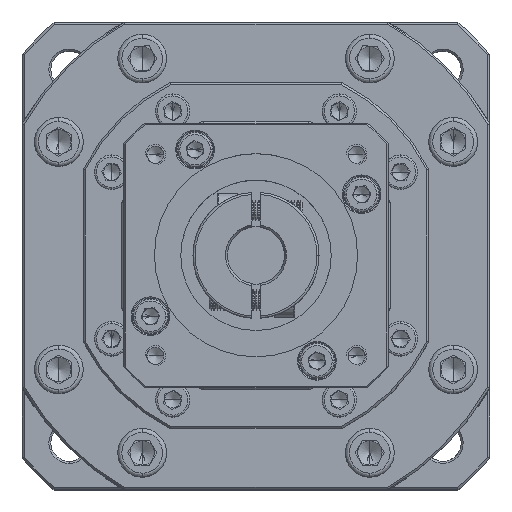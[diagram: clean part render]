
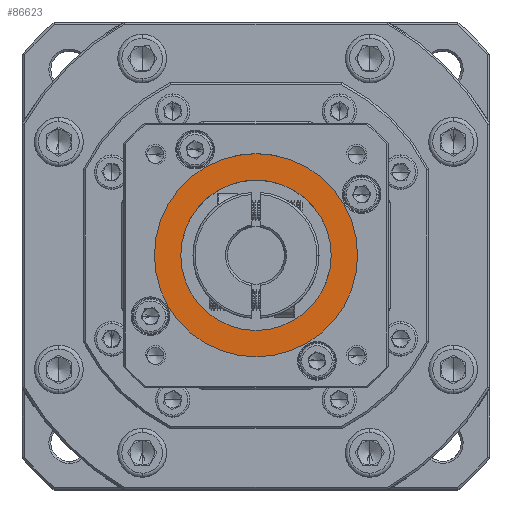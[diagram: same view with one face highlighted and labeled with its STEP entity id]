
A CAD part, top view. The second image highlights one B-rep face of the part: STEP entity #86623.
In plain terms, the highlighted planar face has unit normal (0, 0, 1).
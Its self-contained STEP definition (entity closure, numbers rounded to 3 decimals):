
#743 = CARTESIAN_POINT ( 'NONE',  ( -27.203, 21.322, -20.152 ) ) ;
#2590 = EDGE_CURVE ( 'NONE', #123729, #74776, #60443, .T. ) ;
#2676 = DIRECTION ( 'NONE',  ( 1., 0., 0. ) ) ;
#15664 = CARTESIAN_POINT ( 'NONE',  ( -52.203, 21.322, -20.152 ) ) ;
#19280 = ORIENTED_EDGE ( 'NONE', *, *, #2590, .T. ) ;
#19883 = CIRCLE ( 'NONE', #56993, 25. ) ;
#22694 = AXIS2_PLACEMENT_3D ( 'NONE', #89394, #30949, #99228 ) ;
#25179 = CARTESIAN_POINT ( 'NONE',  ( -33.703, 21.322, -20.152 ) ) ;
#25540 = DIRECTION ( 'NONE',  ( 1., 0., 0. ) ) ;
#27964 = ORIENTED_EDGE ( 'NONE', *, *, #94405, .T. ) ;
#28290 = CARTESIAN_POINT ( 'NONE',  ( -52.203, 21.322, -20.152 ) ) ;
#30650 = EDGE_LOOP ( 'NONE', ( #80318, #41559 ) ) ;
#30949 = DIRECTION ( 'NONE',  ( 0., 0., 1. ) ) ;
#32302 = AXIS2_PLACEMENT_3D ( 'NONE', #45189, #113526, #55039 ) ;
#33668 = PLANE ( 'NONE',  #32302 ) ;
#38066 = DIRECTION ( 'NONE',  ( 1., 0., 0. ) ) ;
#41559 = ORIENTED_EDGE ( 'NONE', *, *, #57338, .T. ) ;
#45189 = CARTESIAN_POINT ( 'NONE',  ( -52.203, 21.322, -20.152 ) ) ;
#45391 = FACE_OUTER_BOUND ( 'NONE', #30650, .T. ) ;
#47698 = EDGE_LOOP ( 'NONE', ( #19280, #27964 ) ) ;
#55039 = DIRECTION ( 'NONE',  ( 1., 0., 0. ) ) ;
#56993 = AXIS2_PLACEMENT_3D ( 'NONE', #119730, #61238, #2676 ) ;
#57338 = EDGE_CURVE ( 'NONE', #117576, #83959, #118051, .T. ) ;
#60443 = CIRCLE ( 'NONE', #75341, 18.5 ) ;
#61238 = DIRECTION ( 'NONE',  ( 0., 0., 1. ) ) ;
#70365 = CIRCLE ( 'NONE', #116918, 18.5 ) ;
#71373 = FACE_BOUND ( 'NONE', #47698, .T. ) ;
#71515 = EDGE_CURVE ( 'NONE', #83959, #117576, #19883, .T. ) ;
#74776 = VERTEX_POINT ( 'NONE', #115961 ) ;
#75341 = AXIS2_PLACEMENT_3D ( 'NONE', #28290, #96587, #38066 ) ;
#80318 = ORIENTED_EDGE ( 'NONE', *, *, #71515, .T. ) ;
#83959 = VERTEX_POINT ( 'NONE', #743 ) ;
#84017 = DIRECTION ( 'NONE',  ( 0., 0., -1. ) ) ;
#86623 = ADVANCED_FACE ( 'NONE', ( #45391, #71373 ), #33668, .T. ) ;
#89394 = CARTESIAN_POINT ( 'NONE',  ( -52.203, 21.322, -20.152 ) ) ;
#94405 = EDGE_CURVE ( 'NONE', #74776, #123729, #70365, .T. ) ;
#96587 = DIRECTION ( 'NONE',  ( 0., 0., -1. ) ) ;
#99228 = DIRECTION ( 'NONE',  ( 1., 0., 0. ) ) ;
#113526 = DIRECTION ( 'NONE',  ( 0., 0., 1. ) ) ;
#115961 = CARTESIAN_POINT ( 'NONE',  ( -70.703, 21.322, -20.152 ) ) ;
#116918 = AXIS2_PLACEMENT_3D ( 'NONE', #15664, #84017, #25540 ) ;
#117576 = VERTEX_POINT ( 'NONE', #119787 ) ;
#118051 = CIRCLE ( 'NONE', #22694, 25. ) ;
#119730 = CARTESIAN_POINT ( 'NONE',  ( -52.203, 21.322, -20.152 ) ) ;
#119787 = CARTESIAN_POINT ( 'NONE',  ( -77.203, 21.322, -20.152 ) ) ;
#123729 = VERTEX_POINT ( 'NONE', #25179 ) ;
